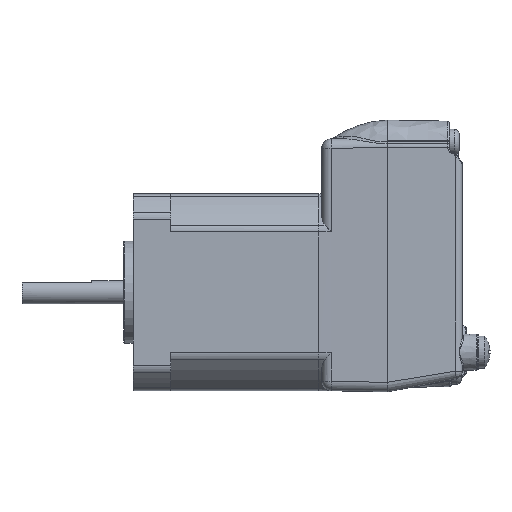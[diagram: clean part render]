
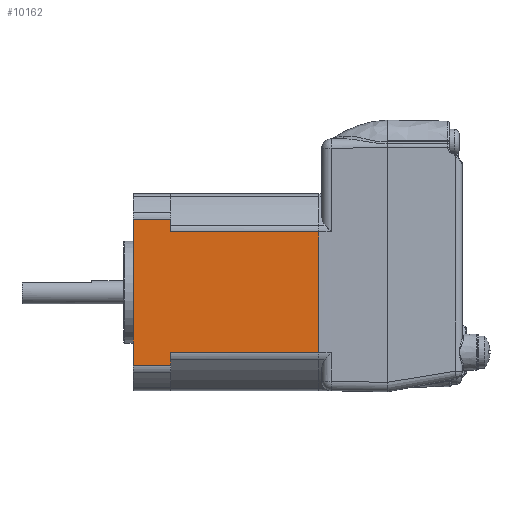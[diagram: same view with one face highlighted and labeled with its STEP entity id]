
A CAD part, left-side view. The second image highlights one B-rep face of the part: STEP entity #10162.
In plain terms, the highlighted planar face has unit normal (-1, 0, 0).
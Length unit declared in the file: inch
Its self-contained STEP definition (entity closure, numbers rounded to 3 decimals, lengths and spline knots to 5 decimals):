
#9671=CARTESIAN_POINT('',(-1.68444,1.55474,-0.5621));
#9672=VERTEX_POINT('',#9671);
#9673=CARTESIAN_POINT('',(-1.68441,2.80568,-0.5621));
#9674=VERTEX_POINT('',#9673);
#9675=CARTESIAN_POINT('',(-1.68441,1.57521,-0.5621));
#9676=DIRECTION('',(0.,1.,0.));
#9677=VECTOR('',#9676,1.);
#9678=LINE('',#9675,#9677);
#9679=EDGE_CURVE('',#9672,#9674,#9678,.T.);
#10069=CARTESIAN_POINT('',(-1.68441,2.80568,0.45634));
#10070=VERTEX_POINT('',#10069);
#10078=CARTESIAN_POINT('',(-1.68438,1.55474,0.45633));
#10079=VERTEX_POINT('',#10078);
#10080=CARTESIAN_POINT('',(-1.68441,1.70281,0.45634));
#10081=DIRECTION('',(0.,1.,0.));
#10082=VECTOR('',#10081,1.);
#10083=LINE('',#10080,#10082);
#10084=EDGE_CURVE('',#10079,#10070,#10083,.T.);
#10109=ORIENTED_EDGE('',*,*,#10084,.T.);
#10110=CARTESIAN_POINT('',(-1.68441,2.80568,0.56285));
#10111=VERTEX_POINT('',#10110);
#10112=CARTESIAN_POINT('',(-1.68441,2.80568,0.57473));
#10113=DIRECTION('',(0.,0.,1.));
#10114=VECTOR('',#10113,1.);
#10115=LINE('',#10112,#10114);
#10116=EDGE_CURVE('',#10070,#10111,#10115,.T.);
#10117=ORIENTED_EDGE('',*,*,#10116,.T.);
#10118=CARTESIAN_POINT('',(-1.68441,3.12268,0.56285));
#10119=VERTEX_POINT('',#10118);
#10120=CARTESIAN_POINT('',(-1.68441,3.12268,0.56285));
#10121=DIRECTION('',(0.,-1.,0.));
#10122=VECTOR('',#10121,1.);
#10123=LINE('',#10120,#10122);
#10124=EDGE_CURVE('',#10119,#10111,#10123,.T.);
#10125=ORIENTED_EDGE('',*,*,#10124,.F.);
#10126=CARTESIAN_POINT('',(-1.68441,3.12268,-0.66862));
#10127=VERTEX_POINT('',#10126);
#10128=CARTESIAN_POINT('',(-1.68441,3.12268,0.57473));
#10129=DIRECTION('',(0.,0.,1.));
#10130=VECTOR('',#10129,1.);
#10131=LINE('',#10128,#10130);
#10132=EDGE_CURVE('',#10127,#10119,#10131,.T.);
#10133=ORIENTED_EDGE('',*,*,#10132,.F.);
#10134=CARTESIAN_POINT('',(-1.68441,2.80568,-0.66862));
#10135=VERTEX_POINT('',#10134);
#10136=CARTESIAN_POINT('',(-1.68441,3.12268,-0.66862));
#10137=DIRECTION('',(0.,1.,0.));
#10138=VECTOR('',#10137,1.);
#10139=LINE('',#10136,#10138);
#10140=EDGE_CURVE('',#10135,#10127,#10139,.T.);
#10141=ORIENTED_EDGE('',*,*,#10140,.F.);
#10142=CARTESIAN_POINT('',(-1.68441,2.80568,0.57473));
#10143=DIRECTION('',(0.,0.,1.));
#10144=VECTOR('',#10143,1.);
#10145=LINE('',#10142,#10144);
#10146=EDGE_CURVE('',#10135,#9674,#10145,.T.);
#10147=ORIENTED_EDGE('',*,*,#10146,.T.);
#10148=ORIENTED_EDGE('',*,*,#9679,.F.);
#10149=CARTESIAN_POINT('',(-1.68438,1.55474,-0.33949));
#10150=DIRECTION('',(0.,0.,-1.));
#10151=VECTOR('',#10150,1.);
#10152=LINE('',#10149,#10151);
#10153=EDGE_CURVE('',#10079,#9672,#10152,.T.);
#10154=ORIENTED_EDGE('',*,*,#10153,.F.);
#10155=EDGE_LOOP('',(#10109,#10117,#10125,#10133,#10141,#10147,#10148,#10154));
#10156=FACE_OUTER_BOUND('',#10155,.T.);
#10157=CARTESIAN_POINT('',(-1.68441,1.57521,0.45633));
#10158=DIRECTION('',(-1.,0.,0.));
#10159=DIRECTION('',(0.,0.,1.));
#10160=AXIS2_PLACEMENT_3D('',#10157,#10158,#10159);
#10161=PLANE('',#10160);
#10162=ADVANCED_FACE('',(#10156),#10161,.T.);
